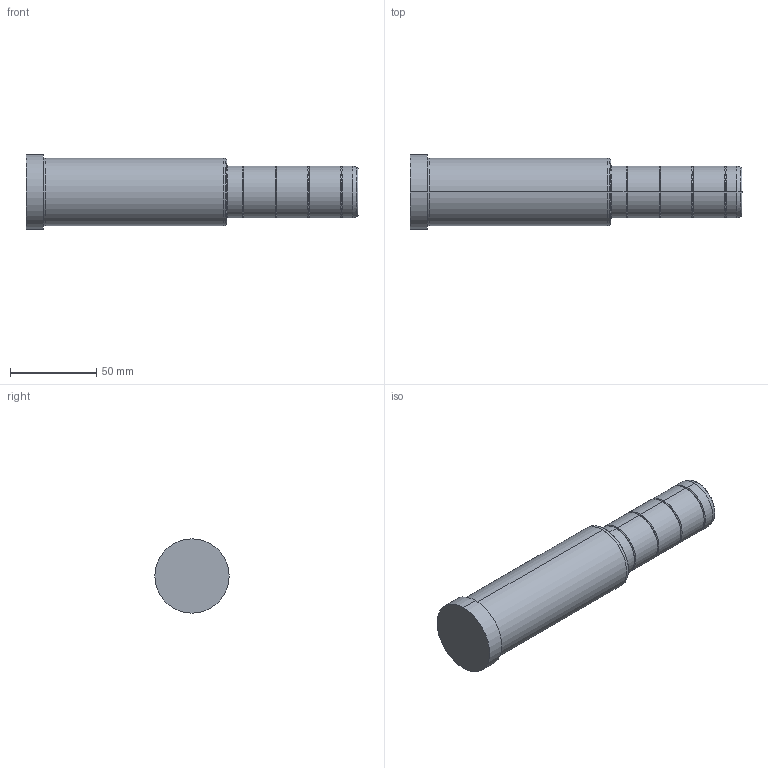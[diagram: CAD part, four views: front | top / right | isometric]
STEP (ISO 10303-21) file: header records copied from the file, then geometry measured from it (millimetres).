
FILE_DESCRIPTION( ( 'STEP AP203' ), '1' );
FILE_NAME( 'C:/Projects/D02 - 30x116x76.step', '2002-12-31T22:37:21', ( ' ' ), ( ' ' ), 'XStep 1.0', ' ', ' ' );
FILE_SCHEMA( ( 'CONFIG_CONTROL_DESIGN' ) );
Length unit declared in the file: metre
Products named in the file (1): 1
Bounding box: 192 x 43 x 43 mm (x, y, z)
Volume: 194718.4 mm3; surface area: 24468.7 mm2
Topology: 1 solids, 1 shells, 48 faces, 94 edges, 52 vertices
Faces by surface type: bspline 26, revolution 22
Entity records: 1523 total; most frequent: CARTESIAN_POINT 617, ORIENTED_EDGE 188, DIRECTION 150, EDGE_CURVE 94, AXIS2_PLACEMENT_3D 53, EDGE_LOOP 52, VERTEX_POINT 52, CIRCLE 52
